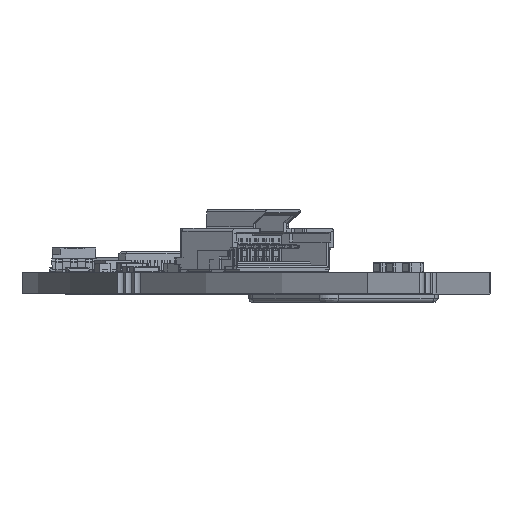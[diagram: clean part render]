
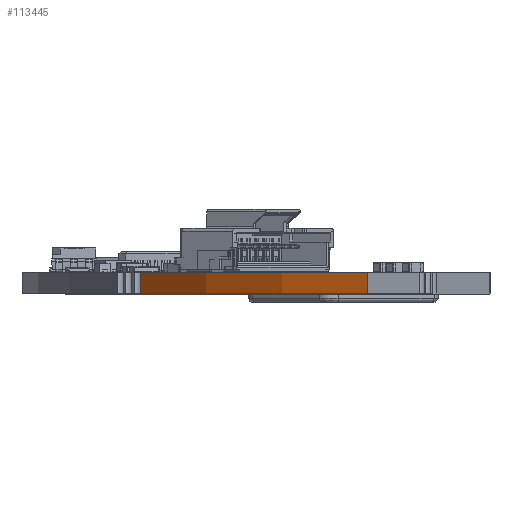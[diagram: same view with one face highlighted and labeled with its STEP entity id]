
A CAD part, left-side view. The second image highlights one B-rep face of the part: STEP entity #113445.
In plain terms, the highlighted cylindrical face has radius 44.5 mm (diameter 89 mm), a partial arc.
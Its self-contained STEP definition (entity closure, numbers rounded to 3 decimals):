
#3214 = CIRCLE ( 'NONE', #67035, 44.5 ) ;
#12222 = DIRECTION ( 'NONE',  ( 0., 0., -1. ) ) ;
#20220 = VERTEX_POINT ( 'NONE', #65141 ) ;
#23723 = ORIENTED_EDGE ( 'NONE', *, *, #43637, .T. ) ;
#24744 = CIRCLE ( 'NONE', #180468, 44.5 ) ;
#34842 = DIRECTION ( 'NONE',  ( 0., 0., 1. ) ) ;
#42517 = CARTESIAN_POINT ( 'NONE',  ( -40.331, 18.806, -1.582 ) ) ;
#43637 = EDGE_CURVE ( 'NONE', #20220, #173112, #24744, .T. ) ;
#43686 = EDGE_LOOP ( 'NONE', ( #95555, #23723, #153382, #65660 ) ) ;
#50394 = DIRECTION ( 'NONE',  ( -1., 0., 0. ) ) ;
#51554 = AXIS2_PLACEMENT_3D ( 'NONE', #165503, #12222, #137928 ) ;
#51818 = CARTESIAN_POINT ( 'NONE',  ( -26.692, 35.606, -1.582 ) ) ;
#53014 = CYLINDRICAL_SURFACE ( 'NONE', #51554, 44.5 ) ;
#53597 = DIRECTION ( 'NONE',  ( 0., 0., -1. ) ) ;
#65141 = CARTESIAN_POINT ( 'NONE',  ( -26.692, 35.606, -1.581 ) ) ;
#65660 = ORIENTED_EDGE ( 'NONE', *, *, #165853, .T. ) ;
#66691 = VERTEX_POINT ( 'NONE', #139770 ) ;
#67035 = AXIS2_PLACEMENT_3D ( 'NONE', #94544, #162699, #50394 ) ;
#85955 = FACE_OUTER_BOUND ( 'NONE', #43686, .T. ) ;
#91238 = CARTESIAN_POINT ( 'NONE',  ( 0., 0., -1.581 ) ) ;
#94544 = CARTESIAN_POINT ( 'NONE',  ( 0., 0., 0. ) ) ;
#95555 = ORIENTED_EDGE ( 'NONE', *, *, #152470, .T. ) ;
#98720 = VECTOR ( 'NONE', #53597, 1000. ) ;
#109130 = CARTESIAN_POINT ( 'NONE',  ( -40.331, 18.806, -1.581 ) ) ;
#113432 = VERTEX_POINT ( 'NONE', #150197 ) ;
#113445 = ADVANCED_FACE ( 'NONE', ( #85955 ), #53014, .T. ) ;
#124317 = VECTOR ( 'NONE', #154843, 1000. ) ;
#126585 = LINE ( 'NONE', #42517, #124317 ) ;
#131188 = DIRECTION ( 'NONE',  ( -1., 0., 0. ) ) ;
#137928 = DIRECTION ( 'NONE',  ( -1., 0., 0. ) ) ;
#139770 = CARTESIAN_POINT ( 'NONE',  ( -40.331, 18.806, 0. ) ) ;
#150197 = CARTESIAN_POINT ( 'NONE',  ( -26.692, 35.606, 0. ) ) ;
#152470 = EDGE_CURVE ( 'NONE', #113432, #20220, #160222, .T. ) ;
#153382 = ORIENTED_EDGE ( 'NONE', *, *, #175043, .T. ) ;
#154843 = DIRECTION ( 'NONE',  ( 0., 0., 1. ) ) ;
#160222 = LINE ( 'NONE', #51818, #98720 ) ;
#162699 = DIRECTION ( 'NONE',  ( 0., 0., -1. ) ) ;
#165503 = CARTESIAN_POINT ( 'NONE',  ( 0., 0., -1.582 ) ) ;
#165853 = EDGE_CURVE ( 'NONE', #66691, #113432, #3214, .T. ) ;
#173112 = VERTEX_POINT ( 'NONE', #109130 ) ;
#175043 = EDGE_CURVE ( 'NONE', #173112, #66691, #126585, .T. ) ;
#180468 = AXIS2_PLACEMENT_3D ( 'NONE', #91238, #34842, #131188 ) ;
